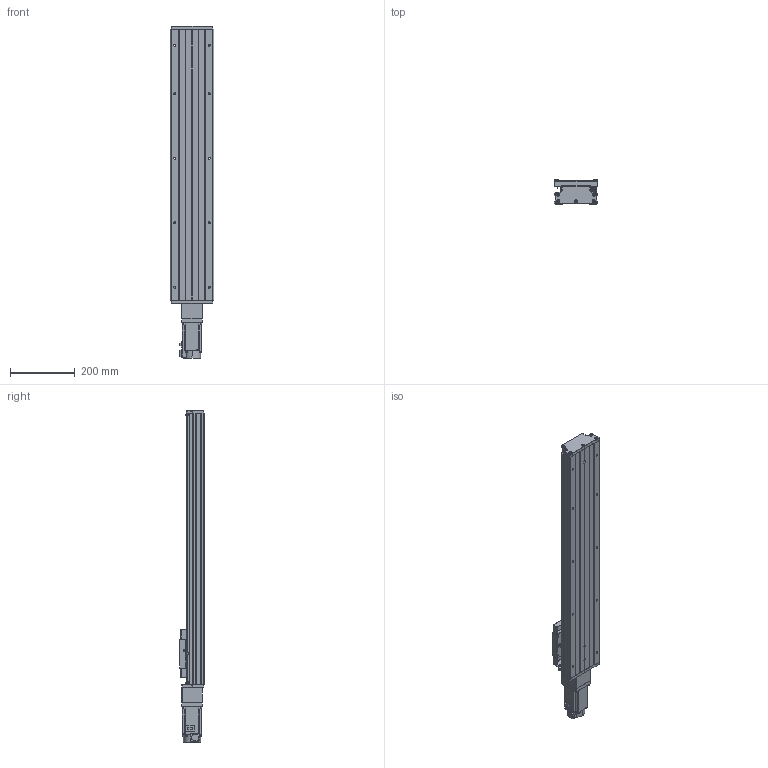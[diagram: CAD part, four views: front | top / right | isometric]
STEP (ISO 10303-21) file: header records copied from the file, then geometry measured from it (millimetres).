
FILE_DESCRIPTION (( 'STEP AP203' ), '1' );
FILE_NAME ('CTH130-650-BC-M40-C4.step', '2023-06-30T02:34:03', ( '微软用户' ), ( '微软中国' ), 'SwSTEP 2.0', 'SolidWorks 2020', '' );
FILE_SCHEMA (( 'CONFIG_CONTROL_DESIGN' ));
Length unit declared in the file: millimetre
Products named in the file (21): GBT77-2000 M3×3; GBT 70.3-M3℅8; GB1155-6X6; CTH130-031; HG-KN43J-S100; GBT70.1 M5℅16; GBT 70.2-M3¡Á5_M3¡Á6; CTH130-650-BC-M40-C4; GTH14-001_650; CTHA60-017; す晦芛蹟隊 M3℅5; CTH130-002_GTH14-002; EE_SX911P_R; CTHA86-006-1_M40; GB T308.1-2013-6.35; CTHA60-016; CTHA86-013; GTH14-004; GBT 70.1-M3℅5; CTHA86-027-1; GTH14-005
Assembly tree (59 placements, depth 2):
  CTH130-650-BC-M40-C4
    GTH14-001_650
    CTH130-002_GTH14-002
    GB T308.1-2013-6.35  x2
    GTH14-004
    GTH14-005
    GB1155-6X6  x2
    GBT70.1 M5℅16  x10
    CTHA60-017  x3
    EE_SX911P_R  x3
    CTHA60-016  x2
    GBT 70.1-M3℅5  x6
    GBT77-2000 M3×3  x6
    CTH130-031
    GBT 70.2-M3¡Á5_M3¡Á6  x8
    す晦芛蹟隊 M3℅5  x6
    CTHA86-006-1_M40
    CTHA86-013
    CTHA86-027-1
    GBT 70.3-M3℅8  x2
    HG-KN43J-S100
Bounding box: 135 x 76 x 1028.7 mm (x, y, z)
Volume: 4965927.3 mm3; surface area: 788821.2 mm2
Topology: 62 solids, 62 shells, 2380 faces, 5681 edges, 3519 vertices
Faces by surface type: plane 1303, cylinder 626, cone 287, torus 120, sphere 24, bspline 20
Entity records: 43680 total; most frequent: CARTESIAN_POINT 9805, DIRECTION 6331, ORIENTED_EDGE 6262, EDGE_CURVE 3131, AXIS2_PLACEMENT_3D 2141, LINE 2049, VECTOR 2049, VERTEX_POINT 1979
